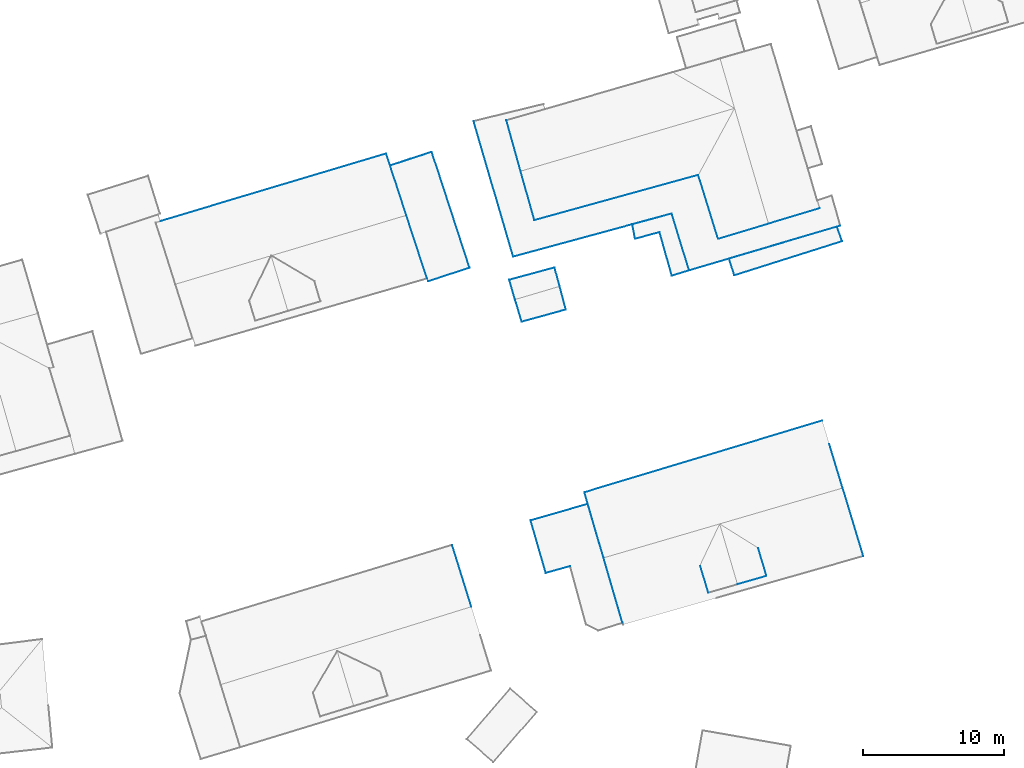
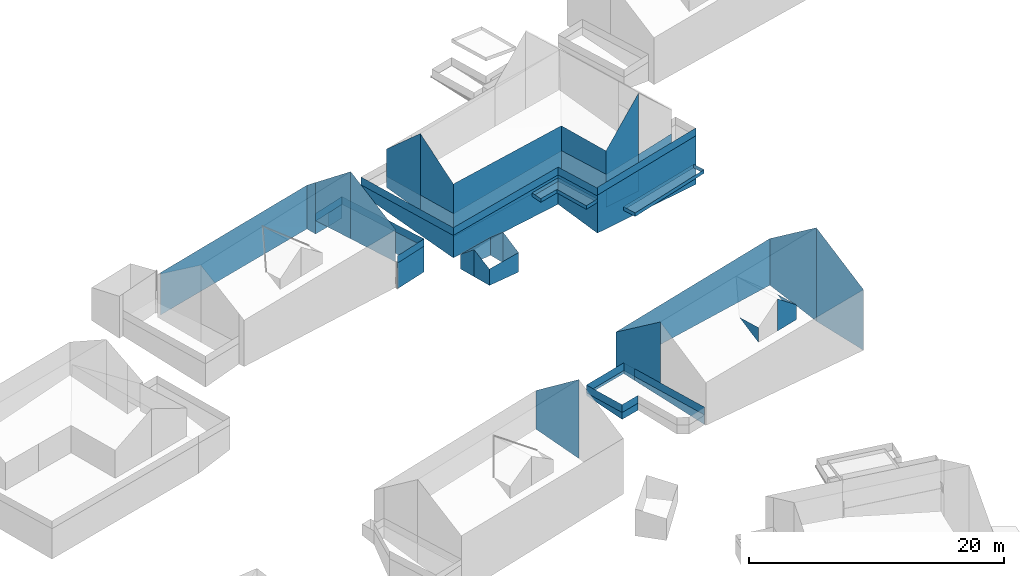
# Not in any storey, part 21 of 57: 83 walls.
"""IFC4 building model written with IfcOpenShell, lengths in metres."""

from ifc_helpers import new_model, entity, si_unit, converted_unit, frame, origin, place, context, subcontext, project, spatial, face_set, surface_model, element, save


model = new_model("IFC4")

# Units and contexts
model_context = context("Model", 3, precision=1e-05, world=origin())
body_context = subcontext(model_context, "Body", "Model", "MODEL_VIEW")
ifc_project = project(units=[converted_unit("PLANEANGLEUNIT", "DEGREE", entity("IfcRatioMeasure", 0.0174532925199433), si_unit("PLANEANGLEUNIT", "RADIAN"), dimensions=[0, 0, 0, 0, 0, 0, 0]), si_unit("AREAUNIT", "SQUARE_METRE"), si_unit("LENGTHUNIT", "METRE")], contexts=[model_context])

# Site, building
site_placement = place(None, origin())
site = spatial("IfcSite", under=ifc_project, at=site_placement, Name="_site")
building_1_placement = place(site_placement, origin())
building_1 = spatial("IfcBuilding", under=site, at=building_1_placement, Name="_building")

# Walls
wall_1_placement = place(building_1_placement, origin())
element("IfcWall", 1, at=wall_1_placement, inside=building_1, Name="Wall", PredefinedType="NOTDEFINED", context=body_context, shape_type="SurfaceModel", body=[
    surface_model("IfcFaceBasedSurfaceModel", [(141.642, 138.854, 118.75), (138.698, 137.892, 118.75), (138.698, 137.892, 116.282), (141.642, 138.854, 116.283)], [face_set([[[0, 1, 2, 3]]])]),
])
wall_2_placement = place(building_1_placement, origin())
element("IfcWall", 2, at=wall_2_placement, inside=building_1, Name="Wall", PredefinedType="NOTDEFINED", context=body_context, shape_type="SurfaceModel", body=[
    surface_model("IfcFaceBasedSurfaceModel", [(138.963, 147.072, 118.75), (141.642, 138.854, 118.75), (141.642, 138.854, 116.283), (138.963, 147.072, 117.374)], [face_set([[[0, 1, 2, 3]]])]),
])
wall_3_placement = place(building_1_placement, origin())
element("IfcWall", 3, at=wall_3_placement, inside=building_1, Name="Wall", PredefinedType="NOTDEFINED", context=body_context, shape_type="SurfaceModel", body=[
    surface_model("IfcFaceBasedSurfaceModel", [(137.47, 146.587, 118.75), (138.963, 147.072, 118.75), (138.963, 147.072, 117.374), (137.47, 146.587, 117.397)], [face_set([[[0, 1, 2, 3]]])]),
])
wall_4_placement = place(building_1_placement, origin())
element("IfcWall", 4, at=wall_4_placement, inside=building_1, Name="Wall", PredefinedType="NOTDEFINED", context=body_context, shape_type="SurfaceModel", body=[
    surface_model("IfcFaceBasedSurfaceModel", [(136.008, 146.11, 118.75), (137.47, 146.587, 118.75), (137.47, 146.587, 117.397), (136.008, 146.11, 117.468)], [face_set([[[0, 1, 2, 3]]])]),
])
wall_5_placement = place(building_1_placement, origin())
element("IfcWall", 5, at=wall_5_placement, inside=building_1, Name="Wall", PredefinedType="NOTDEFINED", context=body_context, shape_type="SurfaceModel", body=[
    surface_model("IfcFaceBasedSurfaceModel", [(141.642, 138.854, 118.69), (138.698, 137.892, 118.69), (138.698, 137.892, 119.44), (141.642, 138.854, 119.44)], [face_set([[[0, 1, 2, 3]]])]),
])
wall_6_placement = place(building_1_placement, origin())
element("IfcWall", 6, at=wall_6_placement, inside=building_1, Name="Wall", PredefinedType="NOTDEFINED", context=body_context, shape_type="SurfaceModel", body=[
    surface_model("IfcFaceBasedSurfaceModel", [(138.963, 147.072, 118.69), (141.642, 138.854, 118.69), (141.642, 138.854, 119.44), (138.963, 147.072, 119.44)], [face_set([[[0, 1, 2, 3]]])]),
])
wall_7_placement = place(building_1_placement, origin())
element("IfcWall", 7, at=wall_7_placement, inside=building_1, Name="Wall", PredefinedType="NOTDEFINED", context=body_context, shape_type="SurfaceModel", body=[
    surface_model("IfcFaceBasedSurfaceModel", [(136.008, 146.11, 118.69), (138.963, 147.072, 118.69), (138.963, 147.072, 119.44), (136.008, 146.11, 119.44)], [face_set([[[0, 1, 2, 3]]])]),
])
wall_8_placement = place(building_1_placement, origin())
element("IfcWall", 8, at=wall_8_placement, inside=building_1, Name="Wall", PredefinedType="NOTDEFINED", context=body_context, shape_type="SurfaceModel", body=[
    surface_model("IfcFaceBasedSurfaceModel", [(141.642, 138.854, 118.69), (138.698, 137.892, 118.69), (138.698, 137.892, 119.44), (141.642, 138.854, 119.44)], [face_set([[[0, 1, 2, 3]]])]),
])
wall_9_placement = place(building_1_placement, origin())
element("IfcWall", 9, at=wall_9_placement, inside=building_1, Name="Wall", PredefinedType="NOTDEFINED", context=body_context, shape_type="SurfaceModel", body=[
    surface_model("IfcFaceBasedSurfaceModel", [(138.963, 147.072, 118.69), (141.642, 138.854, 118.69), (141.642, 138.854, 119.44), (138.963, 147.072, 119.44)], [face_set([[[0, 1, 2, 3]]])]),
])
wall_10_placement = place(building_1_placement, origin())
element("IfcWall", 10, at=wall_10_placement, inside=building_1, Name="Wall", PredefinedType="NOTDEFINED", context=body_context, shape_type="SurfaceModel", body=[
    surface_model("IfcFaceBasedSurfaceModel", [(136.008, 146.11, 118.69), (138.963, 147.072, 118.69), (138.963, 147.072, 119.44), (136.008, 146.11, 119.44)], [face_set([[[0, 1, 2, 3]]])]),
])

# Building
building_2_placement = place(site_placement, origin())
building_2 = spatial("IfcBuilding", under=site, at=building_2_placement, Name="_building")

# Walls
wall_11_placement = place(building_2_placement, origin())
element("IfcWall", 11, at=wall_11_placement, inside=building_2, Name="Wall", PredefinedType="NOTDEFINED", context=body_context, shape_type="SurfaceModel", body=[
    surface_model("IfcFaceBasedSurfaceModel", [(158.583, 115.793, 119.0), (157.999, 117.768, 119.0), (158.583, 115.793, 117.577)], [face_set([[[0, 1, 2]]])]),
])
wall_12_placement = place(building_2_placement, origin())
element("IfcWall", 12, at=wall_12_placement, inside=building_2, Name="Wall", PredefinedType="NOTDEFINED", context=body_context, shape_type="SurfaceModel", body=[
    surface_model("IfcFaceBasedSurfaceModel", [(162.704, 116.998, 119.01), (160.648, 116.395, 120.67), (160.648, 116.395, 117.584), (162.704, 116.998, 117.593)], [face_set([[[0, 1, 2, 3]]])]),
])
wall_13_placement = place(building_2_placement, origin())
element("IfcWall", 13, at=wall_13_placement, inside=building_2, Name="Wall", PredefinedType="NOTDEFINED", context=body_context, shape_type="SurfaceModel", body=[
    surface_model("IfcFaceBasedSurfaceModel", [(148.781, 117.684, 114.06), (147.059, 117.204, 114.06), (147.059, 117.204, 113.401), (148.781, 117.684, 113.396)], [face_set([[[0, 1, 2, 3]]])]),
])
wall_14_placement = place(building_2_placement, origin())
element("IfcWall", 14, at=wall_14_placement, inside=building_2, Name="Wall", PredefinedType="NOTDEFINED", context=body_context, shape_type="SurfaceModel", body=[
    surface_model("IfcFaceBasedSurfaceModel", [(145.975, 120.931, 114.06), (150.035, 122.097, 114.06), (150.035, 122.097, 113.776), (145.975, 120.931, 113.814)], [face_set([[[0, 1, 2, 3]]])]),
])
wall_15_placement = place(building_2_placement, origin())
element("IfcWall", 15, at=wall_15_placement, inside=building_2, Name="Wall", PredefinedType="NOTDEFINED", context=body_context, shape_type="SurfaceModel", body=[
    surface_model("IfcFaceBasedSurfaceModel", [(147.059, 117.204, 114.06), (145.975, 120.931, 114.06), (145.975, 120.931, 113.814), (147.059, 117.204, 113.401)], [face_set([[[0, 1, 2, 3]]])]),
])
wall_16_placement = place(building_2_placement, origin())
element("IfcWall", 16, at=wall_16_placement, inside=building_2, Name="Wall", PredefinedType="NOTDEFINED", context=body_context, shape_type="SurfaceModel", body=[
    surface_model("IfcFaceBasedSurfaceModel", [(150.035, 122.097, 114.06), (152.489, 113.665, 114.06), (152.489, 113.665, 113.143), (150.035, 122.097, 113.776)], [face_set([[[0, 1, 2, 3]]])]),
])
wall_17_placement = place(building_2_placement, origin())
element("IfcWall", 17, at=wall_17_placement, inside=building_2, Name="Wall", PredefinedType="NOTDEFINED", context=body_context, shape_type="SurfaceModel", body=[
    surface_model("IfcFaceBasedSurfaceModel", [(162.129, 118.973, 119.014), (162.704, 116.998, 119.01), (162.704, 116.998, 117.593), (162.129, 118.973, 119.013)], [face_set([[[0, 1, 2, 3]]])]),
])
wall_18_placement = place(building_2_placement, origin())
element("IfcWall", 18, at=wall_18_placement, inside=building_2, Name="Wall", PredefinedType="NOTDEFINED", context=body_context, shape_type="SurfaceModel", body=[
    surface_model("IfcFaceBasedSurfaceModel", [(168.113, 123.235, 120.71), (169.581, 118.397, 117.21), (169.581, 118.397, 111.403), (168.113, 123.235, 111.768)], [face_set([[[0, 1, 2, 3]]])]),
])
wall_19_placement = place(building_2_placement, origin())
element("IfcWall", 19, at=wall_19_placement, inside=building_2, Name="Wall", PredefinedType="NOTDEFINED", context=body_context, shape_type="SurfaceModel", body=[
    surface_model("IfcFaceBasedSurfaceModel", [(149.794, 122.923, 117.33), (166.664, 128.012, 117.28), (166.664, 128.012, 112.815), (149.794, 122.923, 113.829)], [face_set([[[0, 1, 2, 3]]])]),
])
wall_20_placement = place(building_2_placement, origin())
element("IfcWall", 20, at=wall_20_placement, inside=building_2, Name="Wall", PredefinedType="NOTDEFINED", context=body_context, shape_type="SurfaceModel", body=[
    surface_model("IfcFaceBasedSurfaceModel", [(166.664, 128.012, 117.28), (168.113, 123.235, 120.71), (168.113, 123.235, 111.768), (166.664, 128.012, 112.815)], [face_set([[[0, 1, 2, 3]]])]),
])
wall_21_placement = place(building_2_placement, origin())
element("IfcWall", 21, at=wall_21_placement, inside=building_2, Name="Wall", PredefinedType="NOTDEFINED", context=body_context, shape_type="SurfaceModel", body=[
    surface_model("IfcFaceBasedSurfaceModel", [(151.147, 118.279, 120.64), (149.794, 122.923, 117.33), (149.794, 122.923, 113.829), (151.147, 118.279, 113.481)], [face_set([[[0, 1, 2, 3]]])]),
])
wall_22_placement = place(building_2_placement, origin())
element("IfcWall", 22, at=wall_22_placement, inside=building_2, Name="Wall", PredefinedType="NOTDEFINED", context=body_context, shape_type="SurfaceModel", body=[
    surface_model("IfcFaceBasedSurfaceModel", [(150.035, 122.097, 114.06), (152.489, 113.665, 114.06), (152.489, 113.665, 114.81), (150.035, 122.097, 114.81)], [face_set([[[0, 1, 2, 3]]])]),
])
wall_23_placement = place(building_2_placement, origin())
element("IfcWall", 23, at=wall_23_placement, inside=building_2, Name="Wall", PredefinedType="NOTDEFINED", context=body_context, shape_type="SurfaceModel", body=[
    surface_model("IfcFaceBasedSurfaceModel", [(147.059, 117.204, 114.06), (145.975, 120.931, 114.06), (145.975, 120.931, 114.81), (147.059, 117.204, 114.81)], [face_set([[[0, 1, 2, 3]]])]),
])
wall_24_placement = place(building_2_placement, origin())
element("IfcWall", 24, at=wall_24_placement, inside=building_2, Name="Wall", PredefinedType="NOTDEFINED", context=body_context, shape_type="SurfaceModel", body=[
    surface_model("IfcFaceBasedSurfaceModel", [(148.781, 117.684, 114.06), (147.059, 117.204, 114.06), (147.059, 117.204, 114.81), (148.781, 117.684, 114.81)], [face_set([[[0, 1, 2, 3]]])]),
])
wall_25_placement = place(building_2_placement, origin())
element("IfcWall", 25, at=wall_25_placement, inside=building_2, Name="Wall", PredefinedType="NOTDEFINED", context=body_context, shape_type="SurfaceModel", body=[
    surface_model("IfcFaceBasedSurfaceModel", [(145.975, 120.931, 114.06), (150.035, 122.097, 114.06), (150.035, 122.097, 114.81), (145.975, 120.931, 114.81)], [face_set([[[0, 1, 2, 3]]])]),
])
wall_26_placement = place(building_2_placement, origin())
element("IfcWall", 26, at=wall_26_placement, inside=building_2, Name="Wall", PredefinedType="NOTDEFINED", context=body_context, shape_type="SurfaceModel", body=[
    surface_model("IfcFaceBasedSurfaceModel", [(150.035, 122.097, 114.06), (152.489, 113.665, 114.06), (152.489, 113.665, 114.81), (150.035, 122.097, 114.81)], [face_set([[[0, 1, 2, 3]]])]),
])
wall_27_placement = place(building_2_placement, origin())
element("IfcWall", 27, at=wall_27_placement, inside=building_2, Name="Wall", PredefinedType="NOTDEFINED", context=body_context, shape_type="SurfaceModel", body=[
    surface_model("IfcFaceBasedSurfaceModel", [(145.975, 120.931, 114.06), (150.035, 122.097, 114.06), (150.035, 122.097, 114.81), (145.975, 120.931, 114.81)], [face_set([[[0, 1, 2, 3]]])]),
])
wall_28_placement = place(building_2_placement, origin())
element("IfcWall", 28, at=wall_28_placement, inside=building_2, Name="Wall", PredefinedType="NOTDEFINED", context=body_context, shape_type="SurfaceModel", body=[
    surface_model("IfcFaceBasedSurfaceModel", [(147.059, 117.204, 114.06), (145.975, 120.931, 114.06), (145.975, 120.931, 114.81), (147.059, 117.204, 114.81)], [face_set([[[0, 1, 2, 3]]])]),
])
wall_29_placement = place(building_2_placement, origin())
element("IfcWall", 29, at=wall_29_placement, inside=building_2, Name="Wall", PredefinedType="NOTDEFINED", context=body_context, shape_type="SurfaceModel", body=[
    surface_model("IfcFaceBasedSurfaceModel", [(148.781, 117.684, 114.06), (147.059, 117.204, 114.06), (147.059, 117.204, 114.81), (148.781, 117.684, 114.81)], [face_set([[[0, 1, 2, 3]]])]),
])

# Building
building_3_placement = place(site_placement, origin())
building_3 = spatial("IfcBuilding", under=site, at=building_3_placement, Name="_building")

# Wall
wall_30_placement = place(building_3_placement, origin())
element("IfcWall", 30, at=wall_30_placement, inside=building_3, Name="Wall", PredefinedType="NOTDEFINED", context=body_context, shape_type="SurfaceModel", body=[
    surface_model("IfcFaceBasedSurfaceModel", [(140.401, 119.191, 117.29), (141.77, 114.816, 120.52), (141.77, 114.816, 112.95), (140.401, 119.191, 113.598)], [face_set([[[0, 1, 2, 3]]])]),
])

# Building
building_4_placement = place(site_placement, origin())
building_4 = spatial("IfcBuilding", under=site, at=building_4_placement, Name="_building")

# Walls
wall_31_placement = place(building_4_placement, origin())
element("IfcWall", 31, at=wall_31_placement, inside=building_4, Name="Wall", PredefinedType="NOTDEFINED", context=body_context, shape_type="SurfaceModel", body=[
    surface_model("IfcFaceBasedSurfaceModel", [(155.129, 141.38, 117.923), (153.387, 140.91, 117.923), (153.387, 140.91, 117.573), (155.129, 141.38, 117.573)], [face_set([[[0, 1, 2, 3]]])]),
])
wall_32_placement = place(building_4_placement, origin())
element("IfcWall", 32, at=wall_32_placement, inside=building_4, Name="Wall", PredefinedType="NOTDEFINED", context=body_context, shape_type="SurfaceModel", body=[
    surface_model("IfcFaceBasedSurfaceModel", [(155.998, 138.288, 117.923), (155.129, 141.38, 117.923), (155.129, 141.38, 117.573), (155.998, 138.288, 117.573)], [face_set([[[0, 1, 2, 3]]])]),
])
wall_33_placement = place(building_4_placement, origin())
element("IfcWall", 33, at=wall_33_placement, inside=building_4, Name="Wall", PredefinedType="NOTDEFINED", context=body_context, shape_type="SurfaceModel", body=[
    surface_model("IfcFaceBasedSurfaceModel", [(157.217, 138.67, 117.923), (155.998, 138.288, 117.923), (155.998, 138.288, 117.573), (157.217, 138.67, 117.573)], [face_set([[[0, 1, 2, 3]]])]),
])
wall_34_placement = place(building_4_placement, origin())
element("IfcWall", 34, at=wall_34_placement, inside=building_4, Name="Wall", PredefinedType="NOTDEFINED", context=body_context, shape_type="SurfaceModel", body=[
    surface_model("IfcFaceBasedSurfaceModel", [(155.991, 142.701, 117.923), (157.217, 138.67, 117.923), (157.217, 138.67, 117.573), (155.991, 142.701, 117.573)], [face_set([[[0, 1, 2, 3]]])]),
])
wall_35_placement = place(building_4_placement, origin())
element("IfcWall", 35, at=wall_35_placement, inside=building_4, Name="Wall", PredefinedType="NOTDEFINED", context=body_context, shape_type="SurfaceModel", body=[
    surface_model("IfcFaceBasedSurfaceModel", [(153.191, 141.936, 117.923), (155.991, 142.701, 117.923), (155.991, 142.701, 117.573), (153.191, 141.936, 117.573)], [face_set([[[0, 1, 2, 3]]])]),
])
wall_36_placement = place(building_4_placement, origin())
element("IfcWall", 36, at=wall_36_placement, inside=building_4, Name="Wall", PredefinedType="NOTDEFINED", context=body_context, shape_type="SurfaceModel", body=[
    surface_model("IfcFaceBasedSurfaceModel", [(153.387, 140.91, 117.923), (153.191, 141.936, 117.923), (153.191, 141.936, 117.573), (153.387, 140.91, 117.573)], [face_set([[[0, 1, 2, 3]]])]),
])
wall_37_placement = place(building_4_placement, origin())
element("IfcWall", 37, at=wall_37_placement, inside=building_4, Name="Wall", PredefinedType="NOTDEFINED", context=body_context, shape_type="SurfaceModel", body=[
    surface_model("IfcFaceBasedSurfaceModel", [(155.129, 141.38, 117.923), (153.387, 140.91, 117.923), (153.387, 140.91, 117.573), (155.129, 141.38, 117.573)], [face_set([[[0, 1, 2, 3]]])]),
])
wall_38_placement = place(building_4_placement, origin())
element("IfcWall", 38, at=wall_38_placement, inside=building_4, Name="Wall", PredefinedType="NOTDEFINED", context=body_context, shape_type="SurfaceModel", body=[
    surface_model("IfcFaceBasedSurfaceModel", [(155.998, 138.288, 117.923), (155.129, 141.38, 117.923), (155.129, 141.38, 117.573), (155.998, 138.288, 117.573)], [face_set([[[0, 1, 2, 3]]])]),
])
wall_39_placement = place(building_4_placement, origin())
element("IfcWall", 39, at=wall_39_placement, inside=building_4, Name="Wall", PredefinedType="NOTDEFINED", context=body_context, shape_type="SurfaceModel", body=[
    surface_model("IfcFaceBasedSurfaceModel", [(157.217, 138.67, 117.923), (155.998, 138.288, 117.923), (155.998, 138.288, 117.573), (157.217, 138.67, 117.573)], [face_set([[[0, 1, 2, 3]]])]),
])
wall_40_placement = place(building_4_placement, origin())
element("IfcWall", 40, at=wall_40_placement, inside=building_4, Name="Wall", PredefinedType="NOTDEFINED", context=body_context, shape_type="SurfaceModel", body=[
    surface_model("IfcFaceBasedSurfaceModel", [(155.991, 142.701, 117.923), (157.217, 138.67, 117.923), (157.217, 138.67, 117.573), (155.991, 142.701, 117.573)], [face_set([[[0, 1, 2, 3]]])]),
])
wall_41_placement = place(building_4_placement, origin())
element("IfcWall", 41, at=wall_41_placement, inside=building_4, Name="Wall", PredefinedType="NOTDEFINED", context=body_context, shape_type="SurfaceModel", body=[
    surface_model("IfcFaceBasedSurfaceModel", [(153.191, 141.936, 117.923), (155.991, 142.701, 117.923), (155.991, 142.701, 117.573), (153.191, 141.936, 117.573)], [face_set([[[0, 1, 2, 3]]])]),
])
wall_42_placement = place(building_4_placement, origin())
element("IfcWall", 42, at=wall_42_placement, inside=building_4, Name="Wall", PredefinedType="NOTDEFINED", context=body_context, shape_type="SurfaceModel", body=[
    surface_model("IfcFaceBasedSurfaceModel", [(144.742, 139.642, 118.198), (141.935, 149.254, 118.198), (141.935, 149.254, 117.355), (144.742, 139.642, 116.051)], [face_set([[[0, 1, 2, 3]]])]),
])
wall_43_placement = place(building_4_placement, origin())
element("IfcWall", 43, at=wall_43_placement, inside=building_4, Name="Wall", PredefinedType="NOTDEFINED", context=body_context, shape_type="SurfaceModel", body=[
    surface_model("IfcFaceBasedSurfaceModel", [(162.848, 141.98, 118.198), (166.476, 143.076, 118.249), (166.476, 143.076, 114.467), (162.848, 141.98, 114.683)], [face_set([[[0, 1, 2, 3]]])]),
])
wall_44_placement = place(building_4_placement, origin())
element("IfcWall", 44, at=wall_44_placement, inside=building_4, Name="Wall", PredefinedType="NOTDEFINED", context=body_context, shape_type="SurfaceModel", body=[
    surface_model("IfcFaceBasedSurfaceModel", [(157.866, 145.438, 118.198), (159.281, 140.902, 118.198), (159.281, 140.902, 115.013), (157.866, 145.438, 115.591)], [face_set([[[0, 1, 2, 3]]])]),
])
wall_45_placement = place(building_4_placement, origin())
element("IfcWall", 45, at=wall_45_placement, inside=building_4, Name="Wall", PredefinedType="NOTDEFINED", context=body_context, shape_type="SurfaceModel", body=[
    surface_model("IfcFaceBasedSurfaceModel", [(146.244, 142.228, 118.198), (157.866, 145.438, 118.198), (157.866, 145.438, 115.591), (146.244, 142.228, 115.951)], [face_set([[[0, 1, 2, 3]]])]),
])
wall_46_placement = place(building_4_placement, origin())
element("IfcWall", 46, at=wall_46_placement, inside=building_4, Name="Wall", PredefinedType="NOTDEFINED", context=body_context, shape_type="SurfaceModel", body=[
    surface_model("IfcFaceBasedSurfaceModel", [(145.265, 145.713, 118.198), (146.244, 142.228, 118.198), (146.244, 142.228, 115.951), (145.265, 145.713, 116.616)], [face_set([[[0, 1, 2, 3]]])]),
])
wall_47_placement = place(building_4_placement, origin())
element("IfcWall", 47, at=wall_47_placement, inside=building_4, Name="Wall", PredefinedType="NOTDEFINED", context=body_context, shape_type="SurfaceModel", body=[
    surface_model("IfcFaceBasedSurfaceModel", [(155.991, 142.701, 118.198), (144.742, 139.642, 118.198), (144.742, 139.642, 116.051), (155.991, 142.701, 115.391)], [face_set([[[0, 1, 2, 3]]])]),
])
wall_48_placement = place(building_4_placement, origin())
element("IfcWall", 48, at=wall_48_placement, inside=building_4, Name="Wall", PredefinedType="NOTDEFINED", context=body_context, shape_type="SurfaceModel", body=[
    surface_model("IfcFaceBasedSurfaceModel", [(157.217, 138.67, 118.198), (155.991, 142.701, 118.198), (155.991, 142.701, 115.391), (157.217, 138.67, 114.642)], [face_set([[[0, 1, 2, 3]]])]),
])
wall_49_placement = place(building_4_placement, origin())
element("IfcWall", 49, at=wall_49_placement, inside=building_4, Name="Wall", PredefinedType="NOTDEFINED", context=body_context, shape_type="SurfaceModel", body=[
    surface_model("IfcFaceBasedSurfaceModel", [(144.258, 149.309, 118.198), (145.265, 145.713, 118.198), (145.265, 145.713, 116.616), (144.258, 149.309, 117.124)], [face_set([[[0, 1, 2, 3]]])]),
])
wall_50_placement = place(building_4_placement, origin())
element("IfcWall", 50, at=wall_50_placement, inside=building_4, Name="Wall", PredefinedType="NOTDEFINED", context=body_context, shape_type="SurfaceModel", body=[
    surface_model("IfcFaceBasedSurfaceModel", [(159.281, 140.902, 118.198), (162.848, 141.98, 118.198), (162.848, 141.98, 114.683), (159.281, 140.902, 115.013)], [face_set([[[0, 1, 2, 3]]])]),
])
wall_51_placement = place(building_4_placement, origin())
element("IfcWall", 51, at=wall_51_placement, inside=building_4, Name="Wall", PredefinedType="NOTDEFINED", context=body_context, shape_type="SurfaceModel", body=[
    surface_model("IfcFaceBasedSurfaceModel", [(155.991, 142.701, 118.198), (157.217, 138.67, 118.198), (157.217, 138.67, 118.948), (155.991, 142.701, 118.948)], [face_set([[[0, 1, 2, 3]]])]),
])
wall_52_placement = place(building_4_placement, origin())
element("IfcWall", 52, at=wall_52_placement, inside=building_4, Name="Wall", PredefinedType="NOTDEFINED", context=body_context, shape_type="SurfaceModel", body=[
    surface_model("IfcFaceBasedSurfaceModel", [(144.742, 139.642, 118.198), (155.991, 142.701, 118.198), (155.991, 142.701, 118.948), (144.742, 139.642, 118.948)], [face_set([[[0, 1, 2, 3]]])]),
])
wall_53_placement = place(building_4_placement, origin())
element("IfcWall", 53, at=wall_53_placement, inside=building_4, Name="Wall", PredefinedType="NOTDEFINED", context=body_context, shape_type="SurfaceModel", body=[
    surface_model("IfcFaceBasedSurfaceModel", [(141.935, 149.254, 118.198), (144.742, 139.642, 118.198), (144.742, 139.642, 118.948), (141.935, 149.254, 118.948)], [face_set([[[0, 1, 2, 3]]])]),
])
wall_54_placement = place(building_4_placement, origin())
element("IfcWall", 54, at=wall_54_placement, inside=building_4, Name="Wall", PredefinedType="NOTDEFINED", context=body_context, shape_type="SurfaceModel", body=[
    surface_model("IfcFaceBasedSurfaceModel", [(155.991, 142.701, 118.198), (157.217, 138.67, 118.198), (157.217, 138.67, 118.948), (155.991, 142.701, 118.948)], [face_set([[[0, 1, 2, 3]]])]),
])
wall_55_placement = place(building_4_placement, origin())
element("IfcWall", 55, at=wall_55_placement, inside=building_4, Name="Wall", PredefinedType="NOTDEFINED", context=body_context, shape_type="SurfaceModel", body=[
    surface_model("IfcFaceBasedSurfaceModel", [(144.742, 139.642, 118.198), (155.991, 142.701, 118.198), (155.991, 142.701, 118.948), (144.742, 139.642, 118.948)], [face_set([[[0, 1, 2, 3]]])]),
])
wall_56_placement = place(building_4_placement, origin())
element("IfcWall", 56, at=wall_56_placement, inside=building_4, Name="Wall", PredefinedType="NOTDEFINED", context=body_context, shape_type="SurfaceModel", body=[
    surface_model("IfcFaceBasedSurfaceModel", [(141.935, 149.254, 118.198), (144.742, 139.642, 118.198), (144.742, 139.642, 118.948), (141.935, 149.254, 118.948)], [face_set([[[0, 1, 2, 3]]])]),
])
wall_57_placement = place(building_4_placement, origin())
element("IfcWall", 57, at=wall_57_placement, inside=building_4, Name="Wall", PredefinedType="NOTDEFINED", context=body_context, shape_type="SurfaceModel", body=[
    surface_model("IfcFaceBasedSurfaceModel", [(153.387, 140.91, 117.923), (153.191, 141.936, 117.923), (153.191, 141.936, 117.573), (153.387, 140.91, 117.573)], [face_set([[[0, 1, 2, 3]]])]),
])

# Building
building_5_placement = place(site_placement, origin())
building_5 = spatial("IfcBuilding", under=site, at=building_5_placement, Name="_building")

# Walls
wall_58_placement = place(building_5_placement, origin())
element("IfcWall", 58, at=wall_58_placement, inside=building_5, Name="Wall", PredefinedType="NOTDEFINED", context=body_context, shape_type="SurfaceModel", body=[
    surface_model("IfcFaceBasedSurfaceModel", [(162.848, 141.98, 124.06), (159.281, 140.902, 120.44), (159.281, 140.902, 115.013), (162.848, 141.98, 114.683)], [face_set([[[0, 1, 2, 3]]])]),
])
wall_59_placement = place(building_5_placement, origin())
element("IfcWall", 59, at=wall_59_placement, inside=building_5, Name="Wall", PredefinedType="NOTDEFINED", context=body_context, shape_type="SurfaceModel", body=[
    surface_model("IfcFaceBasedSurfaceModel", [(146.244, 142.228, 121.03), (145.265, 145.713, 124.08), (145.265, 145.713, 116.616), (146.244, 142.228, 115.951)], [face_set([[[0, 1, 2, 3]]])]),
])
wall_60_placement = place(building_5_placement, origin())
element("IfcWall", 60, at=wall_60_placement, inside=building_5, Name="Wall", PredefinedType="NOTDEFINED", context=body_context, shape_type="SurfaceModel", body=[
    surface_model("IfcFaceBasedSurfaceModel", [(157.866, 145.438, 120.59), (146.244, 142.228, 121.03), (146.244, 142.228, 115.951), (157.866, 145.438, 115.591)], [face_set([[[0, 1, 2, 3]]])]),
])
wall_61_placement = place(building_5_placement, origin())
element("IfcWall", 61, at=wall_61_placement, inside=building_5, Name="Wall", PredefinedType="NOTDEFINED", context=body_context, shape_type="SurfaceModel", body=[
    surface_model("IfcFaceBasedSurfaceModel", [(145.265, 145.713, 124.08), (144.258, 149.309, 120.76), (144.258, 149.309, 117.124), (145.265, 145.713, 116.616)], [face_set([[[0, 1, 2, 3]]])]),
])
wall_62_placement = place(building_5_placement, origin())
element("IfcWall", 62, at=wall_62_placement, inside=building_5, Name="Wall", PredefinedType="NOTDEFINED", context=body_context, shape_type="SurfaceModel", body=[
    surface_model("IfcFaceBasedSurfaceModel", [(159.281, 140.902, 120.44), (157.866, 145.438, 120.59), (157.866, 145.438, 115.591), (159.281, 140.902, 115.013)], [face_set([[[0, 1, 2, 3]]])]),
])

# Building
building_6_placement = place(site_placement, origin())
building_6 = spatial("IfcBuilding", under=site, at=building_6_placement, Name="_building")

# Walls
wall_63_placement = place(building_6_placement, origin())
element("IfcWall", 63, at=wall_63_placement, inside=building_6, Name="Wall", PredefinedType="NOTDEFINED", context=body_context, shape_type="SurfaceModel", body=[
    surface_model("IfcFaceBasedSurfaceModel", [(147.676, 138.873, 117.46), (148.035, 137.544, 118.63), (148.035, 137.544, 115.708), (147.676, 138.873, 115.744)], [face_set([[[0, 1, 2, 3]]])]),
])
wall_64_placement = place(building_6_placement, origin())
element("IfcWall", 64, at=wall_64_placement, inside=building_6, Name="Wall", PredefinedType="NOTDEFINED", context=body_context, shape_type="SurfaceModel", body=[
    surface_model("IfcFaceBasedSurfaceModel", [(144.464, 137.997, 117.49), (147.676, 138.873, 117.46), (147.676, 138.873, 115.744), (144.464, 137.997, 116.086)], [face_set([[[0, 1, 2, 3]]])]),
])
wall_65_placement = place(building_6_placement, origin())
element("IfcWall", 65, at=wall_65_placement, inside=building_6, Name="Wall", PredefinedType="NOTDEFINED", context=body_context, shape_type="SurfaceModel", body=[
    surface_model("IfcFaceBasedSurfaceModel", [(144.871, 136.607, 118.63), (144.464, 137.997, 117.49), (144.464, 137.997, 116.086), (144.871, 136.607, 116.053)], [face_set([[[0, 1, 2, 3]]])]),
])
wall_66_placement = place(building_6_placement, origin())
element("IfcWall", 66, at=wall_66_placement, inside=building_6, Name="Wall", PredefinedType="NOTDEFINED", context=body_context, shape_type="SurfaceModel", body=[
    surface_model("IfcFaceBasedSurfaceModel", [(145.345, 135.025, 117.57), (144.871, 136.607, 118.63), (144.871, 136.607, 116.053), (145.345, 135.025, 116.005)], [face_set([[[0, 1, 2, 3]]])]),
])
wall_67_placement = place(building_6_placement, origin())
element("IfcWall", 67, at=wall_67_placement, inside=building_6, Name="Wall", PredefinedType="NOTDEFINED", context=body_context, shape_type="SurfaceModel", body=[
    surface_model("IfcFaceBasedSurfaceModel", [(148.477, 135.892, 117.53), (145.345, 135.025, 117.57), (145.345, 135.025, 116.005), (148.477, 135.892, 115.663)], [face_set([[[0, 1, 2, 3]]])]),
])
wall_68_placement = place(building_6_placement, origin())
element("IfcWall", 68, at=wall_68_placement, inside=building_6, Name="Wall", PredefinedType="NOTDEFINED", context=body_context, shape_type="SurfaceModel", body=[
    surface_model("IfcFaceBasedSurfaceModel", [(148.035, 137.544, 118.63), (148.477, 135.892, 117.53), (148.477, 135.892, 115.663), (148.035, 137.544, 115.708)], [face_set([[[0, 1, 2, 3]]])]),
])

# Building
building_7_placement = place(site_placement, origin())
building_7 = spatial("IfcBuilding", under=site, at=building_7_placement, Name="_building")

# Walls
wall_69_placement = place(building_7_placement, origin())
element("IfcWall", 69, at=wall_69_placement, inside=building_7, Name="Wall", PredefinedType="NOTDEFINED", context=body_context, shape_type="SurfaceModel", body=[
    surface_model("IfcFaceBasedSurfaceModel", [(136.008, 146.11, 122.4), (137.156, 142.581, 125.18), (137.156, 142.581, 118.75), (136.008, 146.11, 118.75)], [face_set([[[0, 1, 2, 3]]])]),
])
wall_70_placement = place(building_7_placement, origin())
element("IfcWall", 70, at=wall_70_placement, inside=building_7, Name="Wall", PredefinedType="NOTDEFINED", context=body_context, shape_type="SurfaceModel", body=[
    surface_model("IfcFaceBasedSurfaceModel", [(137.156, 142.581, 125.18), (138.632, 138.094, 121.82), (138.632, 138.094, 118.74), (137.156, 142.581, 118.75)], [face_set([[[0, 1, 2, 3]]])]),
])
wall_71_placement = place(building_7_placement, origin())
element("IfcWall", 71, at=wall_71_placement, inside=building_7, Name="Wall", PredefinedType="NOTDEFINED", context=body_context, shape_type="SurfaceModel", body=[
    surface_model("IfcFaceBasedSurfaceModel", [(135.728, 146.957, 121.73), (136.008, 146.11, 122.4), (136.008, 146.11, 117.468), (135.728, 146.957, 117.539)], [face_set([[[0, 1, 2, 3]]])]),
])
wall_72_placement = place(building_7_placement, origin())
element("IfcWall", 72, at=wall_72_placement, inside=building_7, Name="Wall", PredefinedType="NOTDEFINED", context=body_context, shape_type="SurfaceModel", body=[
    surface_model("IfcFaceBasedSurfaceModel", [(119.717, 142.168, 121.877), (135.728, 146.957, 121.73), (135.728, 146.957, 117.539), (119.717, 142.168, 117.82)], [face_set([[[0, 1, 2, 3]]])]),
])

# Building
building_8_placement = place(site_placement, origin())
building_8 = spatial("IfcBuilding", under=site, at=building_8_placement, Name="_building")

# Walls
wall_73_placement = place(building_8_placement, origin())
element("IfcWall", 73, at=wall_73_placement, inside=building_8, Name="Wall", PredefinedType="NOTDEFINED", context=body_context, shape_type="SurfaceModel", body=[
    surface_model("IfcFaceBasedSurfaceModel", [(168.062, 140.737, 115.67), (160.431, 138.314, 115.67), (160.431, 138.314, 115.32), (168.062, 140.737, 115.32)], [face_set([[[0, 1, 2, 3]]])]),
])
wall_74_placement = place(building_8_placement, origin())
element("IfcWall", 74, at=wall_74_placement, inside=building_8, Name="Wall", PredefinedType="NOTDEFINED", context=body_context, shape_type="SurfaceModel", body=[
    surface_model("IfcFaceBasedSurfaceModel", [(167.717, 141.776, 115.67), (168.062, 140.737, 115.67), (168.062, 140.737, 115.32), (167.717, 141.776, 115.32)], [face_set([[[0, 1, 2, 3]]])]),
])
wall_75_placement = place(building_8_placement, origin())
element("IfcWall", 75, at=wall_75_placement, inside=building_8, Name="Wall", PredefinedType="NOTDEFINED", context=body_context, shape_type="SurfaceModel", body=[
    surface_model("IfcFaceBasedSurfaceModel", [(160.059, 139.514, 115.67), (167.717, 141.776, 115.67), (167.717, 141.776, 115.32), (160.059, 139.514, 115.32)], [face_set([[[0, 1, 2, 3]]])]),
])
wall_76_placement = place(building_8_placement, origin())
element("IfcWall", 76, at=wall_76_placement, inside=building_8, Name="Wall", PredefinedType="NOTDEFINED", context=body_context, shape_type="SurfaceModel", body=[
    surface_model("IfcFaceBasedSurfaceModel", [(160.431, 138.314, 115.67), (160.059, 139.514, 115.67), (160.059, 139.514, 115.32), (160.431, 138.314, 115.32)], [face_set([[[0, 1, 2, 3]]])]),
])
wall_77_placement = place(building_8_placement, origin())
element("IfcWall", 77, at=wall_77_placement, inside=building_8, Name="Wall", PredefinedType="NOTDEFINED", context=body_context, shape_type="SurfaceModel", body=[
    surface_model("IfcFaceBasedSurfaceModel", [(168.062, 140.737, 115.67), (160.431, 138.314, 115.67), (160.431, 138.314, 115.32), (168.062, 140.737, 115.32)], [face_set([[[0, 1, 2, 3]]])]),
])
wall_78_placement = place(building_8_placement, origin())
element("IfcWall", 78, at=wall_78_placement, inside=building_8, Name="Wall", PredefinedType="NOTDEFINED", context=body_context, shape_type="SurfaceModel", body=[
    surface_model("IfcFaceBasedSurfaceModel", [(167.717, 141.776, 115.67), (168.062, 140.737, 115.67), (168.062, 140.737, 115.32), (167.717, 141.776, 115.32)], [face_set([[[0, 1, 2, 3]]])]),
])
wall_79_placement = place(building_8_placement, origin())
element("IfcWall", 79, at=wall_79_placement, inside=building_8, Name="Wall", PredefinedType="NOTDEFINED", context=body_context, shape_type="SurfaceModel", body=[
    surface_model("IfcFaceBasedSurfaceModel", [(160.059, 139.514, 115.67), (167.717, 141.776, 115.67), (167.717, 141.776, 115.32), (160.059, 139.514, 115.32)], [face_set([[[0, 1, 2, 3]]])]),
])
wall_80_placement = place(building_8_placement, origin())
element("IfcWall", 80, at=wall_80_placement, inside=building_8, Name="Wall", PredefinedType="NOTDEFINED", context=body_context, shape_type="SurfaceModel", body=[
    surface_model("IfcFaceBasedSurfaceModel", [(167.948, 141.84, 118.275), (157.217, 138.67, 118.275), (157.217, 138.67, 114.642), (167.948, 141.84, 113.633)], [face_set([[[0, 1, 2, 3]]])]),
])
for number, where, name in (
    (81, (0.0, 0.0, 0.0), "Wall"),
    (82, (0.0, 0.0, 0.0), "Wall"),
):
    element("IfcWall", number, at=place(building_8_placement, frame(where)), inside=building_8, Name=name, PredefinedType="NOTDEFINED", context=body_context, shape_type="SurfaceModel", body=[
        surface_model("IfcFaceBasedSurfaceModel", [(157.217, 138.67, 118.275), (167.948, 141.84, 118.275), (167.948, 141.84, 119.025), (157.217, 138.67, 119.025)], [face_set([[[0, 1, 2, 3]]])]),
    ])
wall_81_placement = place(building_8_placement, origin())
element("IfcWall", 83, at=wall_81_placement, inside=building_8, Name="Wall", PredefinedType="NOTDEFINED", context=body_context, shape_type="SurfaceModel", body=[
    surface_model("IfcFaceBasedSurfaceModel", [(160.431, 138.314, 115.67), (160.059, 139.514, 115.67), (160.059, 139.514, 115.32), (160.431, 138.314, 115.32)], [face_set([[[0, 1, 2, 3]]])]),
])

save(model, "model.ifc")
